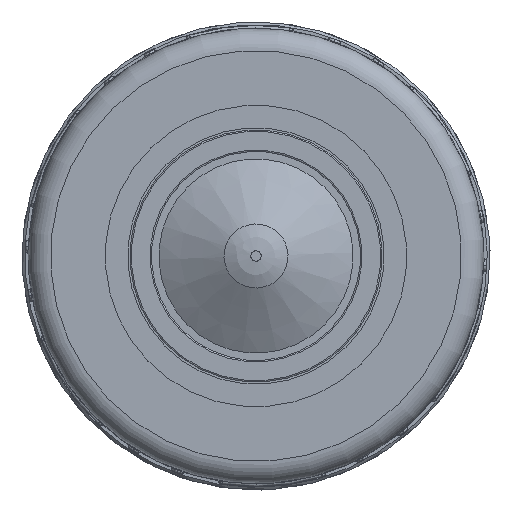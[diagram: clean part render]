
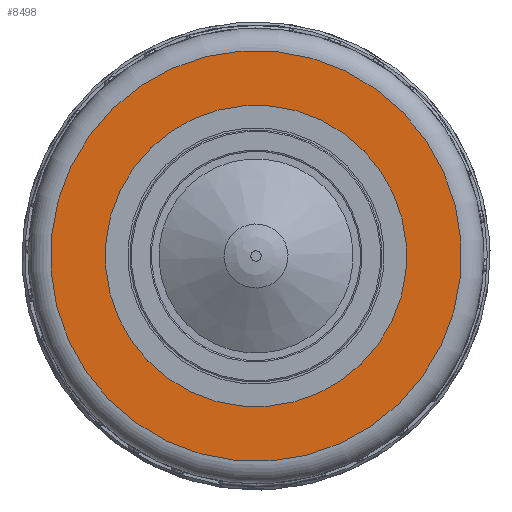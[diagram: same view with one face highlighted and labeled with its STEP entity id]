
A CAD part, front view. The second image highlights one B-rep face of the part: STEP entity #8498.
In plain terms, the highlighted planar face has unit normal (0, -1, 0).
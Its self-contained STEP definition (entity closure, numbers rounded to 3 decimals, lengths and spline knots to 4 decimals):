
#1688=FACE_BOUND('',#2335,.T.);
#1794=FACE_OUTER_BOUND('',#2334,.T.);
#2334=EDGE_LOOP('',(#5503));
#2335=EDGE_LOOP('',(#5504));
#2929=CIRCLE('',#9035,5.41);
#2959=CIRCLE('',#9069,7.375);
#3367=VERTEX_POINT('',#12008);
#3469=VERTEX_POINT('',#13404);
#4168=EDGE_CURVE('',#3367,#3367,#2929,.T.);
#4270=EDGE_CURVE('',#3469,#3469,#2959,.T.);
#5503=ORIENTED_EDGE('',*,*,#4270,.F.);
#5504=ORIENTED_EDGE('',*,*,#4168,.T.);
#7797=PLANE('',#9070);
#8498=ADVANCED_FACE('',(#1794,#1688),#7797,.T.);
#9035=AXIS2_PLACEMENT_3D('',#12009,#9883,#9884);
#9069=AXIS2_PLACEMENT_3D('',#13405,#9987,#9988);
#9070=AXIS2_PLACEMENT_3D('',#13406,#9989,#9990);
#9883=DIRECTION('center_axis',(0.,1.,0.));
#9884=DIRECTION('ref_axis',(-0.827,0.,-0.562));
#9987=DIRECTION('center_axis',(0.,1.,0.));
#9988=DIRECTION('ref_axis',(-0.827,0.,-0.562));
#9989=DIRECTION('center_axis',(0.,-1.,0.));
#9990=DIRECTION('ref_axis',(-0.562,0.,0.827));
#12008=CARTESIAN_POINT('',(4.4748,-8.6801,3.0404));
#12009=CARTESIAN_POINT('Origin',(0.,-8.6801,
0.));
#13404=CARTESIAN_POINT('',(6.1002,-8.6801,4.1447));
#13405=CARTESIAN_POINT('Origin',(0.,-8.6801,
0.));
#13406=CARTESIAN_POINT('Origin',(6.1002,-8.6801,4.1447));
